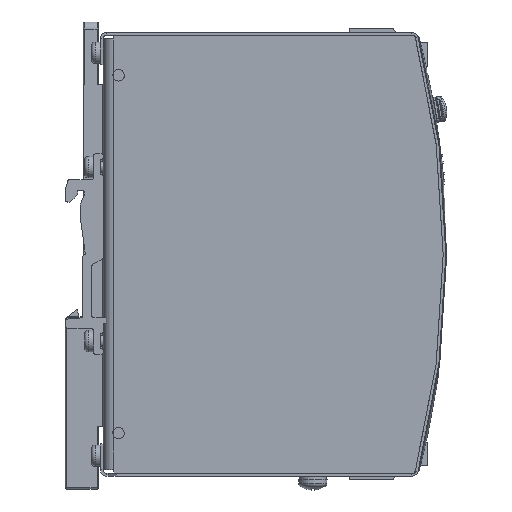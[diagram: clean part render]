
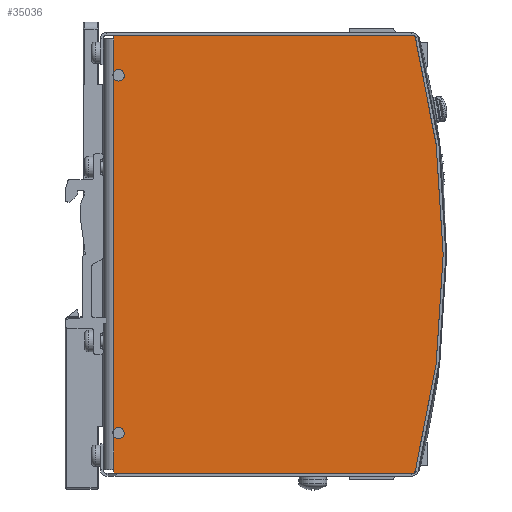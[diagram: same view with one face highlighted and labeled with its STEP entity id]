
A CAD part, front view. The second image highlights one B-rep face of the part: STEP entity #35036.
In plain terms, the highlighted planar face has unit normal (0, -1, 0) as drawn and (-1, 0, 0) by its records, which use the part's own axes.
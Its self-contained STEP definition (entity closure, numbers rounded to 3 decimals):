
#932=PLANE('',#37309);
#2538=FACE_OUTER_BOUND('',#4417,.T.);
#4417=EDGE_LOOP('',(#24578,#24579,#24580,#24581,#24582,#24583,#24584,#24585,
#24586,#24587,#24588,#24589));
#6737=LINE('',#48559,#10766);
#6739=LINE('',#48566,#10768);
#6740=LINE('',#48567,#10769);
#6771=LINE('',#48646,#10800);
#6775=LINE('',#48659,#10804);
#6788=LINE('',#48687,#10817);
#6789=LINE('',#48689,#10818);
#10766=VECTOR('',#39690,10.);
#10768=VECTOR('',#39696,10.);
#10769=VECTOR('',#39697,10.);
#10800=VECTOR('',#39766,10.);
#10804=VECTOR('',#39780,10.);
#10817=VECTOR('',#39809,10.);
#10818=VECTOR('',#39812,10.);
#14793=CIRCLE('',#37265,1.6);
#14796=CIRCLE('',#37268,1.6);
#14797=CIRCLE('',#37270,1.6);
#14800=CIRCLE('',#37273,1.6);
#14808=CIRCLE('',#37290,240.);
#15865=VERTEX_POINT('',#48494);
#15866=VERTEX_POINT('',#48495);
#15867=VERTEX_POINT('',#48506);
#15871=VERTEX_POINT('',#48526);
#15872=VERTEX_POINT('',#48527);
#15873=VERTEX_POINT('',#48538);
#15877=VERTEX_POINT('',#48558);
#15880=VERTEX_POINT('',#48564);
#15899=VERTEX_POINT('',#48620);
#15900=VERTEX_POINT('',#48622);
#15909=VERTEX_POINT('',#48645);
#15913=VERTEX_POINT('',#48658);
#19286=EDGE_CURVE('',#15867,#15865,#14793,.T.);
#19291=EDGE_CURVE('',#15866,#15867,#14796,.T.);
#19293=EDGE_CURVE('',#15873,#15871,#14797,.T.);
#19298=EDGE_CURVE('',#15872,#15873,#14800,.T.);
#19299=EDGE_CURVE('',#15866,#15877,#6737,.T.);
#19303=EDGE_CURVE('',#15880,#15871,#6739,.T.);
#19304=EDGE_CURVE('',#15872,#15865,#6740,.T.);
#19332=EDGE_CURVE('',#15900,#15899,#14808,.T.);
#19343=EDGE_CURVE('',#15877,#15909,#6771,.T.);
#19350=EDGE_CURVE('',#15913,#15880,#6775,.T.);
#19366=EDGE_CURVE('',#15900,#15913,#6788,.T.);
#19367=EDGE_CURVE('',#15909,#15899,#6789,.T.);
#24578=ORIENTED_EDGE('',*,*,#19291,.T.);
#24579=ORIENTED_EDGE('',*,*,#19286,.T.);
#24580=ORIENTED_EDGE('',*,*,#19304,.F.);
#24581=ORIENTED_EDGE('',*,*,#19298,.T.);
#24582=ORIENTED_EDGE('',*,*,#19293,.T.);
#24583=ORIENTED_EDGE('',*,*,#19303,.F.);
#24584=ORIENTED_EDGE('',*,*,#19350,.F.);
#24585=ORIENTED_EDGE('',*,*,#19366,.F.);
#24586=ORIENTED_EDGE('',*,*,#19332,.T.);
#24587=ORIENTED_EDGE('',*,*,#19367,.F.);
#24588=ORIENTED_EDGE('',*,*,#19343,.F.);
#24589=ORIENTED_EDGE('',*,*,#19299,.F.);
#35036=ADVANCED_FACE('',(#2538),#932,.F.);
#37265=AXIS2_PLACEMENT_3D('',#48507,#39668,#39669);
#37268=AXIS2_PLACEMENT_3D('',#48524,#39675,#39676);
#37270=AXIS2_PLACEMENT_3D('',#48539,#39679,#39680);
#37273=AXIS2_PLACEMENT_3D('',#48556,#39686,#39687);
#37290=AXIS2_PLACEMENT_3D('',#48623,#39746,#39747);
#37309=AXIS2_PLACEMENT_3D('',#48688,#39810,#39811);
#39668=DIRECTION('center_axis',(1.,0.,0.));
#39669=DIRECTION('ref_axis',(0.,0.,-1.));
#39675=DIRECTION('center_axis',(1.,0.,0.));
#39676=DIRECTION('ref_axis',(0.,0.,-1.));
#39679=DIRECTION('center_axis',(1.,0.,0.));
#39680=DIRECTION('ref_axis',(0.,0.,-1.));
#39686=DIRECTION('center_axis',(1.,0.,0.));
#39687=DIRECTION('ref_axis',(0.,0.,-1.));
#39690=DIRECTION('',(0.,0.,1.));
#39696=DIRECTION('',(0.,0.,1.));
#39697=DIRECTION('',(0.,0.,1.));
#39746=DIRECTION('center_axis',(-1.,0.,0.));
#39747=DIRECTION('ref_axis',(0.,0.967,-0.255));
#39766=DIRECTION('',(0.,0.,1.));
#39780=DIRECTION('',(0.,0.,1.));
#39809=DIRECTION('',(0.,1.,0.));
#39810=DIRECTION('center_axis',(1.,0.,0.));
#39811=DIRECTION('ref_axis',(0.,0.,-1.));
#39812=DIRECTION('',(0.,-1.,0.));
#48494=CARTESIAN_POINT('',(-16.,-3.,49.067));
#48495=CARTESIAN_POINT('',(-16.,-3.,50.933));
#48506=CARTESIAN_POINT('',(-16.,-4.3,51.6));
#48507=CARTESIAN_POINT('Origin',(-16.,-4.3,50.));
#48524=CARTESIAN_POINT('Origin',(-16.,-4.3,50.));
#48526=CARTESIAN_POINT('',(-16.,-3.,-50.933));
#48527=CARTESIAN_POINT('',(-16.,-3.,-49.067));
#48538=CARTESIAN_POINT('',(-16.,-4.3,-48.4));
#48539=CARTESIAN_POINT('Origin',(-16.,-4.3,-50.));
#48556=CARTESIAN_POINT('Origin',(-16.,-4.3,-50.));
#48558=CARTESIAN_POINT('',(-16.,-3.,60.15));
#48559=CARTESIAN_POINT('',(-16.,-3.,0.));
#48564=CARTESIAN_POINT('',(-16.,-3.,-60.15));
#48566=CARTESIAN_POINT('',(-16.,-3.,0.));
#48567=CARTESIAN_POINT('',(-16.,-3.,0.));
#48620=CARTESIAN_POINT('',(-16.,-87.079,61.15));
#48622=CARTESIAN_POINT('',(-16.,-87.079,-61.15));
#48623=CARTESIAN_POINT('Origin',(-16.,145.,0.));
#48645=CARTESIAN_POINT('',(-16.,-3.,61.15));
#48646=CARTESIAN_POINT('',(-16.,-3.,0.));
#48658=CARTESIAN_POINT('',(-16.,-3.,-61.15));
#48659=CARTESIAN_POINT('',(-16.,-3.,0.));
#48687=CARTESIAN_POINT('',(-16.,29.786,-61.15));
#48688=CARTESIAN_POINT('Origin',(-16.,13.393,0.));
#48689=CARTESIAN_POINT('',(-16.,-95.,61.15));
